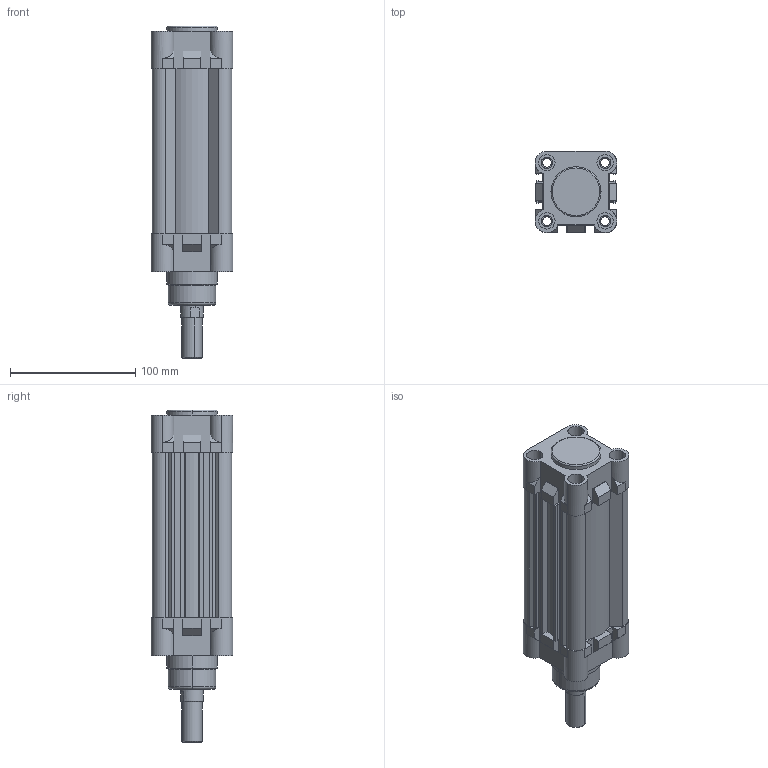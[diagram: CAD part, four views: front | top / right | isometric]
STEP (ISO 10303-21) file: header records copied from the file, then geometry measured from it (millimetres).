
FILE_DESCRIPTION (( 'STEP AP214' ), '1' );
FILE_NAME ('RIC50_100_MY_WEB.STEP', '2020-07-05T17:30:34', ( '' ), ( '' ), 'SwSTEP 2.0', 'SolidWorks 2018', '' );
FILE_SCHEMA (( 'AUTOMOTIVE_DESIGN' ));
Length unit declared in the file: millimetre
Products named in the file (6): 50_ON_KAPAK_WEB; 50_ARKA_KAPAK_WEB; RIC50_100_MY_WEB; 50bogazkecesi; 20_MIL_WEB; 50_BORU
Assembly tree (5 placements, depth 2):
  RIC50_100_MY_WEB
    50_BORU
    50_ARKA_KAPAK_WEB
    50_ON_KAPAK_WEB
    20_MIL_WEB
    50bogazkecesi
Bounding box: 65 x 65 x 265 mm (x, y, z)
Volume: 394923.7 mm3; surface area: 148064.1 mm2
Topology: 5 solids, 5 shells, 576 faces, 1465 edges, 952 vertices
Faces by surface type: plane 265, cylinder 172, bspline 83, cone 40, torus 16
Entity records: 23952 total; most frequent: CARTESIAN_POINT 8155, ORIENTED_EDGE 2930, DIRECTION 2697, EDGE_CURVE 1465, VERTEX_POINT 952, AXIS2_PLACEMENT_3D 919, LINE 859, VECTOR 859
